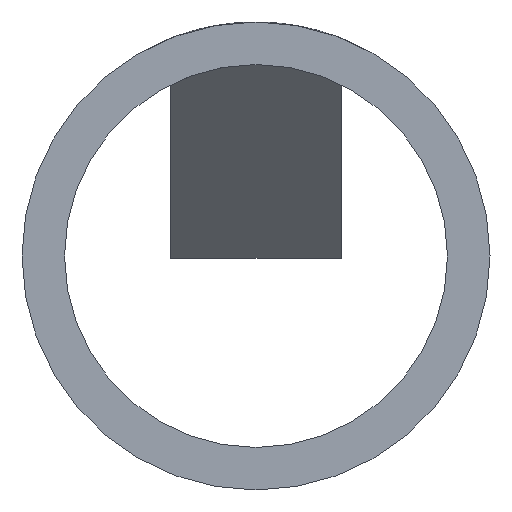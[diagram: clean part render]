
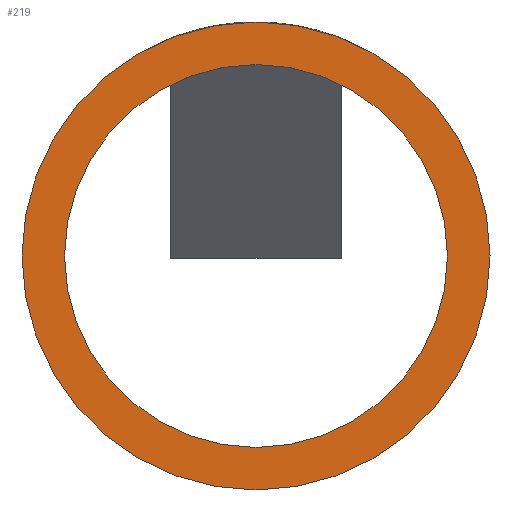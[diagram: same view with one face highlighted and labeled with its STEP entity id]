
A CAD part, front view. The second image highlights one B-rep face of the part: STEP entity #219.
In plain terms, the highlighted planar face has unit normal (0, -1, 0).
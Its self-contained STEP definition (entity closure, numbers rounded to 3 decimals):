
#24 = CIRCLE ( 'NONE', #206, 4.5 ) ;
#70 = CIRCLE ( 'NONE', #152, 4.5 ) ;
#72 = CIRCLE ( 'NONE', #180, 5.5 ) ;
#77 = CIRCLE ( 'NONE', #144, 5.5 ) ;
#92 = VERTEX_POINT ( 'NONE', #103 ) ;
#94 = VERTEX_POINT ( 'NONE', #465 ) ;
#99 = VERTEX_POINT ( 'NONE', #461 ) ;
#103 = CARTESIAN_POINT ( 'NONE',  ( 4.5, 0., 0. ) ) ;
#121 = FACE_BOUND ( 'NONE', #271, .T. ) ;
#127 = FACE_OUTER_BOUND ( 'NONE', #264, .T. ) ;
#144 = AXIS2_PLACEMENT_3D ( 'NONE', #471, #470, #468 ) ;
#151 = EDGE_CURVE ( 'NONE', #329, #94, #77, .T. ) ;
#152 = AXIS2_PLACEMENT_3D ( 'NONE', #460, #451, #449 ) ;
#155 = EDGE_CURVE ( 'NONE', #94, #329, #72, .T. ) ;
#156 = EDGE_CURVE ( 'NONE', #99, #92, #70, .T. ) ;
#180 = AXIS2_PLACEMENT_3D ( 'NONE', #458, #455, #452 ) ;
#188 = EDGE_CURVE ( 'NONE', #92, #99, #24, .T. ) ;
#203 = AXIS2_PLACEMENT_3D ( 'NONE', #363, #352, #351 ) ;
#206 = AXIS2_PLACEMENT_3D ( 'NONE', #405, #394, #393 ) ;
#219 = ADVANCED_FACE ( 'NONE', ( #127, #121 ), #353, .T. ) ;
#245 = ORIENTED_EDGE ( 'NONE', *, *, #151, .T. ) ;
#246 = ORIENTED_EDGE ( 'NONE', *, *, #155, .T. ) ;
#247 = ORIENTED_EDGE ( 'NONE', *, *, #188, .F. ) ;
#248 = ORIENTED_EDGE ( 'NONE', *, *, #156, .F. ) ;
#264 = EDGE_LOOP ( 'NONE', ( #245, #246 ) ) ;
#271 = EDGE_LOOP ( 'NONE', ( #247, #248 ) ) ;
#329 = VERTEX_POINT ( 'NONE', #386 ) ;
#351 = DIRECTION ( 'NONE',  ( -1., 0., 0. ) ) ;
#352 = DIRECTION ( 'NONE',  ( 0., -1., 0. ) ) ;
#353 = PLANE ( 'NONE',  #203 ) ;
#363 = CARTESIAN_POINT ( 'NONE',  ( 0., 0., 0. ) ) ;
#386 = CARTESIAN_POINT ( 'NONE',  ( 5.5, 0., 0. ) ) ;
#393 = DIRECTION ( 'NONE',  ( -1., 0., 0. ) ) ;
#394 = DIRECTION ( 'NONE',  ( 0., -1., 0. ) ) ;
#405 = CARTESIAN_POINT ( 'NONE',  ( 0., 0., 0. ) ) ;
#449 = DIRECTION ( 'NONE',  ( -1., 0., 0. ) ) ;
#451 = DIRECTION ( 'NONE',  ( 0., -1., 0. ) ) ;
#452 = DIRECTION ( 'NONE',  ( -1., 0., 0. ) ) ;
#455 = DIRECTION ( 'NONE',  ( 0., -1., 0. ) ) ;
#458 = CARTESIAN_POINT ( 'NONE',  ( 0., 0., 0. ) ) ;
#460 = CARTESIAN_POINT ( 'NONE',  ( 0., 0., 0. ) ) ;
#461 = CARTESIAN_POINT ( 'NONE',  ( -4.5, 0., 0. ) ) ;
#465 = CARTESIAN_POINT ( 'NONE',  ( -5.5, 0., 0. ) ) ;
#468 = DIRECTION ( 'NONE',  ( -1., 0., 0. ) ) ;
#470 = DIRECTION ( 'NONE',  ( 0., -1., 0. ) ) ;
#471 = CARTESIAN_POINT ( 'NONE',  ( 0., 0., 0. ) ) ;
